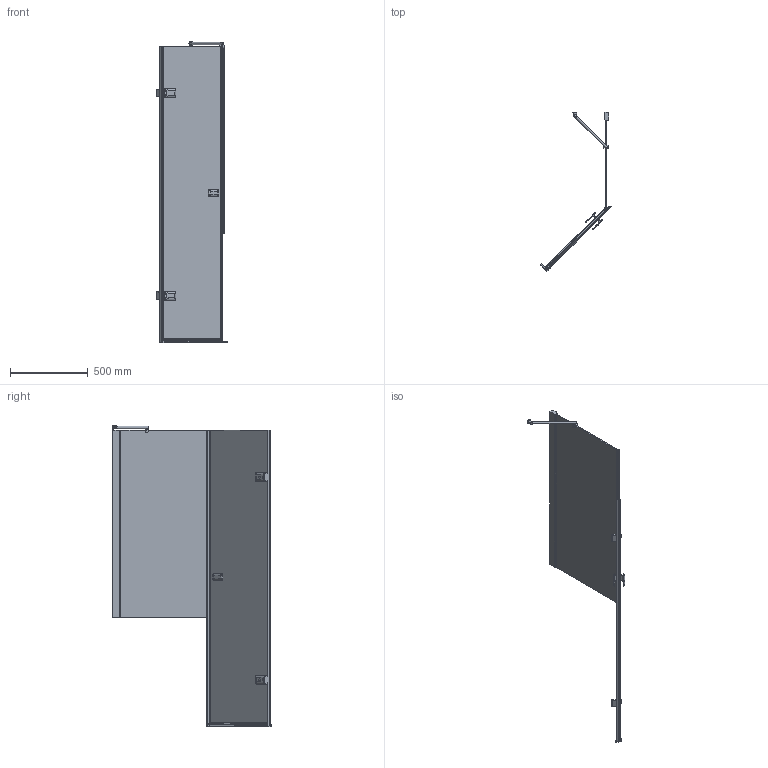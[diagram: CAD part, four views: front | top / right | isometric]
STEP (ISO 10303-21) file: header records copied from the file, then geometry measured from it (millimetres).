
FILE_DESCRIPTION(/* description */ (''),/* implementation_level */ '2;1');
FILE_NAME(/* name */ 'E:\Работа\Сергей\Душевые кабинки\! Работа\222222222222\TREND DOOR GK-862BGPV135-01\TREND DOOR GK-862BGPV135-01 левая модель\TREND DOOR GK-862BGPV135-01 ЛЕВАЯ-3D.stp',/* time_stamp */ '2018-03-03T14:41:37+03:00',/* author */ ('PC'),/* organization */ (''),/* preprocessor_version */ 'ST-DEVELOPER v15.2',/* originating_system */ 'Autodesk Inventor 2014',/* authorisation */ '');
FILE_SCHEMA (('AUTOMOTIVE_DESIGN { 1 0 10303 214 3 1 1 }'));
Length unit declared in the file: millimetre
Products named in the file (1): TREND DOOR GK-862BGPV135-01 ЛЕВАЯ-
3D
Bounding box: 456.51 x 1018.04 x 1931.49 mm (x, y, z)
Volume: 13933243.8 mm3; surface area: 3998367.9 mm2
Topology: 4 solids, 4 shells, 788 faces, 2193 edges, 1367 vertices
Faces by surface type: plane 488, cylinder 221, bspline 52, torus 21, sphere 6
Full cylindrical faces by diameter (mm): 4 x3, 12 x3, 15 x1, 20 x2, 26 x1
Entity records: 27644 total; most frequent: CARTESIAN_POINT 6807, ORIENTED_EDGE 4284, DIRECTION 4035, EDGE_CURVE 2140, LINE 1507, VECTOR 1507, VERTEX_POINT 1357, AXIS2_PLACEMENT_3D 1264
